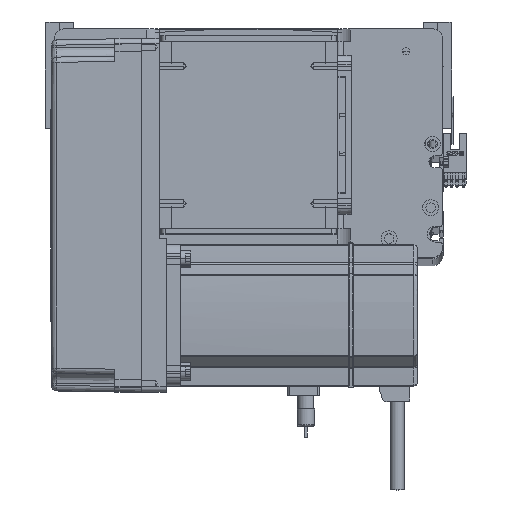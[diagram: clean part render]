
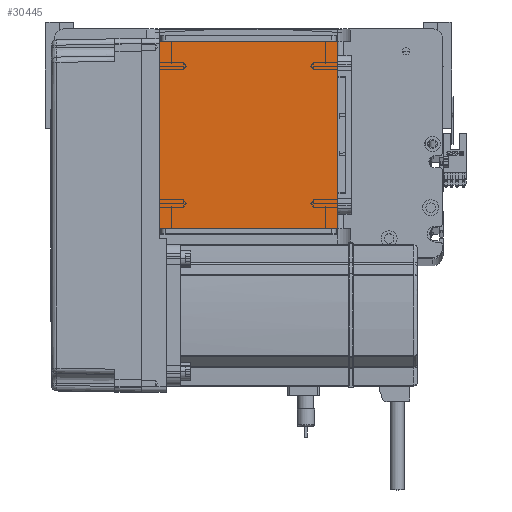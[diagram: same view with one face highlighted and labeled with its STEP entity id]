
A CAD part, top view. The second image highlights one B-rep face of the part: STEP entity #30445.
In plain terms, the highlighted planar face has unit normal (0, 0, 1).
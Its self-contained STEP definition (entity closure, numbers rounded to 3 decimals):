
#135 = DIRECTION ( 'NONE',  ( 0., -1., 0. ) ) ;
#1482 = FACE_OUTER_BOUND ( 'NONE', #3487, .T. ) ;
#2322 = LINE ( 'NONE', #12559, #41003 ) ;
#3487 = EDGE_LOOP ( 'NONE', ( #28612, #56014, #52092, #14064 ) ) ;
#3501 = DIRECTION ( 'NONE',  ( -1., 0., 0. ) ) ;
#6630 = CARTESIAN_POINT ( 'NONE',  ( -50.5, 16., 115. ) ) ;
#8082 = EDGE_CURVE ( 'NONE', #48169, #14703, #44899, .T. ) ;
#9937 = CARTESIAN_POINT ( 'NONE',  ( -50.5, 16., 115. ) ) ;
#10594 = CARTESIAN_POINT ( 'NONE',  ( 0., 0., 115. ) ) ;
#12559 = CARTESIAN_POINT ( 'NONE',  ( -50.5, 122., 115. ) ) ;
#13505 = DIRECTION ( 'NONE',  ( 1., 0., 0. ) ) ;
#14064 = ORIENTED_EDGE ( 'NONE', *, *, #17280, .T. ) ;
#14703 = VERTEX_POINT ( 'NONE', #23244 ) ;
#17280 = EDGE_CURVE ( 'NONE', #14703, #32142, #2322, .T. ) ;
#17688 = AXIS2_PLACEMENT_3D ( 'NONE', #10594, #36533, #23984 ) ;
#20044 = EDGE_CURVE ( 'NONE', #32142, #47474, #52633, .T. ) ;
#23244 = CARTESIAN_POINT ( 'NONE',  ( 50.5, 122., 115. ) ) ;
#23984 = DIRECTION ( 'NONE',  ( 1., 0., 0. ) ) ;
#25654 = CARTESIAN_POINT ( 'NONE',  ( 50.5, 122., 115. ) ) ;
#28612 = ORIENTED_EDGE ( 'NONE', *, *, #20044, .T. ) ;
#30033 = CARTESIAN_POINT ( 'NONE',  ( -50.5, 122., 115. ) ) ;
#30445 = ADVANCED_FACE ( 'NONE', ( #1482 ), #41138, .T. ) ;
#31289 = EDGE_CURVE ( 'NONE', #47474, #48169, #38333, .T. ) ;
#32142 = VERTEX_POINT ( 'NONE', #30033 ) ;
#34075 = CARTESIAN_POINT ( 'NONE',  ( -50.5, 122., 115. ) ) ;
#35062 = VECTOR ( 'NONE', #135, 1000. ) ;
#36533 = DIRECTION ( 'NONE',  ( 0., 0., 1. ) ) ;
#38333 = LINE ( 'NONE', #9937, #38498 ) ;
#38498 = VECTOR ( 'NONE', #13505, 1000. ) ;
#41003 = VECTOR ( 'NONE', #3501, 1000. ) ;
#41138 = PLANE ( 'NONE',  #17688 ) ;
#44899 = LINE ( 'NONE', #25654, #51664 ) ;
#47474 = VERTEX_POINT ( 'NONE', #6630 ) ;
#47755 = CARTESIAN_POINT ( 'NONE',  ( 50.5, 16., 115. ) ) ;
#48169 = VERTEX_POINT ( 'NONE', #47755 ) ;
#51664 = VECTOR ( 'NONE', #52361, 1000. ) ;
#52092 = ORIENTED_EDGE ( 'NONE', *, *, #8082, .T. ) ;
#52361 = DIRECTION ( 'NONE',  ( 0., 1., 0. ) ) ;
#52633 = LINE ( 'NONE', #34075, #35062 ) ;
#56014 = ORIENTED_EDGE ( 'NONE', *, *, #31289, .T. ) ;
